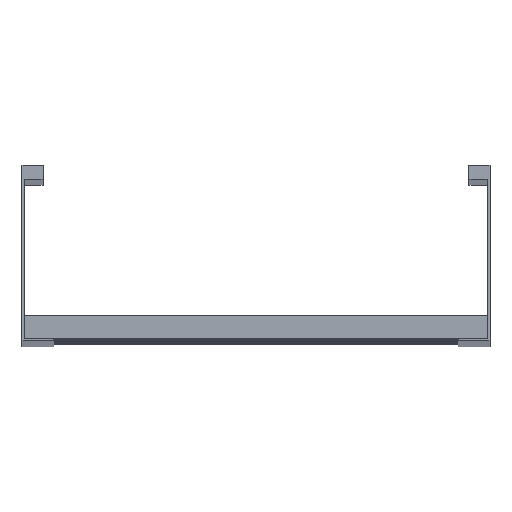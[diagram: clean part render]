
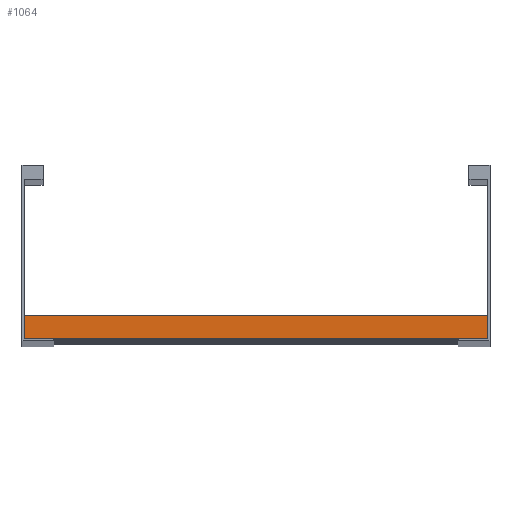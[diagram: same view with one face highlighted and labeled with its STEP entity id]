
A CAD part, top view. The second image highlights one B-rep face of the part: STEP entity #1064.
In plain terms, the highlighted planar face has unit normal (0, 0, 1).
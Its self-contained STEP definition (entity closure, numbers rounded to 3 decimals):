
#301 = VERTEX_POINT ( 'NONE', #3347 ) ;
#452 = ORIENTED_EDGE ( 'NONE', *, *, #808, .T. ) ;
#539 = VERTEX_POINT ( 'NONE', #9549 ) ;
#808 = EDGE_CURVE ( 'NONE', #6383, #301, #10738, .T. ) ;
#915 = VECTOR ( 'NONE', #2781, 1000. ) ;
#1037 = VERTEX_POINT ( 'NONE', #3920 ) ;
#1060 = FACE_OUTER_BOUND ( 'NONE', #10524, .T. ) ;
#1064 = ADVANCED_FACE ( 'NONE', ( #1060 ), #6543, .F. ) ;
#1466 = DIRECTION ( 'NONE',  ( 0., -1., 0. ) ) ;
#1917 = VECTOR ( 'NONE', #8253, 1000. ) ;
#2065 = CARTESIAN_POINT ( 'NONE',  ( 198., 20., 20.25 ) ) ;
#2457 = EDGE_CURVE ( 'NONE', #1037, #539, #5899, .T. ) ;
#2655 = DIRECTION ( 'NONE',  ( -1., 0., 0. ) ) ;
#2781 = DIRECTION ( 'NONE',  ( 0., -1., 0. ) ) ;
#2789 = CARTESIAN_POINT ( 'NONE',  ( 198., 20., 20.25 ) ) ;
#2971 = AXIS2_PLACEMENT_3D ( 'NONE', #2065, #6599, #9969 ) ;
#3347 = CARTESIAN_POINT ( 'NONE',  ( -198., 0., 20.25 ) ) ;
#3582 = CARTESIAN_POINT ( 'NONE',  ( 198., 0., 20.25 ) ) ;
#3657 = ORIENTED_EDGE ( 'NONE', *, *, #6831, .F. ) ;
#3920 = CARTESIAN_POINT ( 'NONE',  ( 198., 20., 20.25 ) ) ;
#5899 = LINE ( 'NONE', #9439, #8573 ) ;
#6383 = VERTEX_POINT ( 'NONE', #7615 ) ;
#6543 = PLANE ( 'NONE',  #2971 ) ;
#6562 = ORIENTED_EDGE ( 'NONE', *, *, #2457, .F. ) ;
#6599 = DIRECTION ( 'NONE',  ( 0., 0., -1. ) ) ;
#6831 = EDGE_CURVE ( 'NONE', #539, #301, #10549, .T. ) ;
#7205 = LINE ( 'NONE', #2789, #1917 ) ;
#7615 = CARTESIAN_POINT ( 'NONE',  ( -198., 20., 20.25 ) ) ;
#8104 = VECTOR ( 'NONE', #2655, 1000. ) ;
#8253 = DIRECTION ( 'NONE',  ( -1., 0., 0. ) ) ;
#8573 = VECTOR ( 'NONE', #1466, 1000. ) ;
#8843 = EDGE_CURVE ( 'NONE', #1037, #6383, #7205, .T. ) ;
#9061 = CARTESIAN_POINT ( 'NONE',  ( -198., 20., 20.25 ) ) ;
#9439 = CARTESIAN_POINT ( 'NONE',  ( 198., 20., 20.25 ) ) ;
#9549 = CARTESIAN_POINT ( 'NONE',  ( 198., 0., 20.25 ) ) ;
#9589 = ORIENTED_EDGE ( 'NONE', *, *, #8843, .T. ) ;
#9969 = DIRECTION ( 'NONE',  ( 0., 1., 0. ) ) ;
#10524 = EDGE_LOOP ( 'NONE', ( #452, #3657, #6562, #9589 ) ) ;
#10549 = LINE ( 'NONE', #3582, #8104 ) ;
#10738 = LINE ( 'NONE', #9061, #915 ) ;
